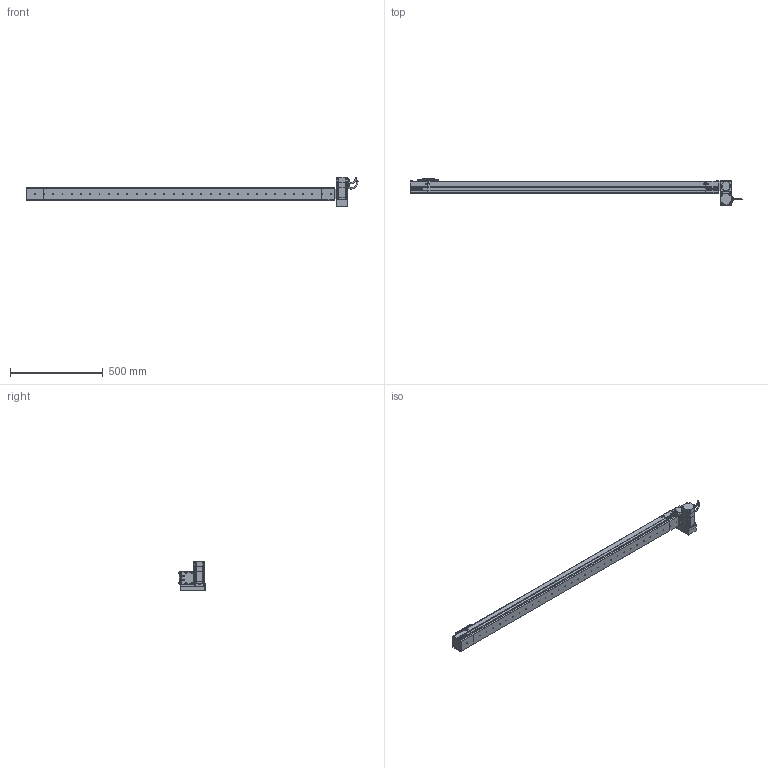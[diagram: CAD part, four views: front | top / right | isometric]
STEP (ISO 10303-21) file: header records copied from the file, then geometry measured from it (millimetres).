
FILE_DESCRIPTION (( 'STEP AP214' ), '1' );
FILE_NAME ('S07 CBN RU S1500.STEP', '2010-06-29T10:51:29', ( 'Conseil Régional Haute-Normandie' ), ( 'Conseil Régional Haute-Normandie' ), 'SwSTEP 2.0', 'SolidWorks 2010', '' );
FILE_SCHEMA (( 'AUTOMOTIVE_DESIGN' ));
Length unit declared in the file: millimetre
Products named in the file (31): Head RU_Default; Couvercle RU_Default; Chariot S07_Default; Corp RU_Default; plaque de serrage Tail_Default; Plaque de bout Tail_Default; Couvercle Tail_Default; Plaque de bout RU_Default; Corp Tail_Default; Tail S07 Tail_Default; Rondelle de Serrage RU_Default; plaque de serrage RU_Default; Corp S07 S1500_Default; vis M5 L15_Default; Support Moteur RU_Default; Couvercle S07 S1500_Default; Cache Support Moteur RU_Default; VisM3_Default; Conecteur2 60BLDC_Default; Conecteur 60BLDC_Default; 60BLDC90A-640_Default; Axe 60BLDC_Default; P1_Default; P4_Default; P3 90A_Default; P2 90A_Default; support chariot_Default; chariot_Default; vis M5 L8_Default; S07 CBN RU S1500
Assembly tree (71 placements, depth 4):
  S07 CBN RU S1500
    Head RU_Default
      vis M5 L15_Default  x16
      plaque de serrage RU_Default
      Support Moteur RU_Default
      Rondelle de Serrage RU_Default  x3
      Plaque de bout RU_Default
      60BLDC90A-640_Default
        VisM3_Default  x12
        Axe 60BLDC_Default
        P1_Default
        P4_Default
        Conecteur2 60BLDC_Default
        Conecteur 60BLDC_Default
        P3 90A_Default
        P2 90A_Default
      Couvercle RU_Default
      Corp RU_Default
      Cache Support Moteur RU_Default
    Tail S07 Tail_Default
      vis M5 L15_Default  x6
      Corp Tail_Default
      Plaque de bout Tail_Default
      Couvercle Tail_Default
      plaque de serrage Tail_Default
    Corp S07 S1500_Default
      Couvercle S07 S1500_Default
      Corp S07 S1500_Default
    Chariot S07_Default
      vis M5 L8_Default  x8
      support chariot_Default
      chariot_Default
Bounding box: 1793.2 x 142 x 162 mm (x, y, z)
Volume: 8431517.7 mm3; surface area: 972460.3 mm2
Topology: 108 solids, 108 shells, 3940 faces, 9686 edges, 6236 vertices
Faces by surface type: plane 2266, bspline 756, cylinder 707, torus 112, cone 95, sphere 4
Entity records: 154633 total; most frequent: CARTESIAN_POINT 79799, ORIENTED_EDGE 14892, DIRECTION 11219, EDGE_CURVE 7446, VERTEX_POINT 4921, VECTOR 4805, LINE 4805, EDGE_LOOP 3213
